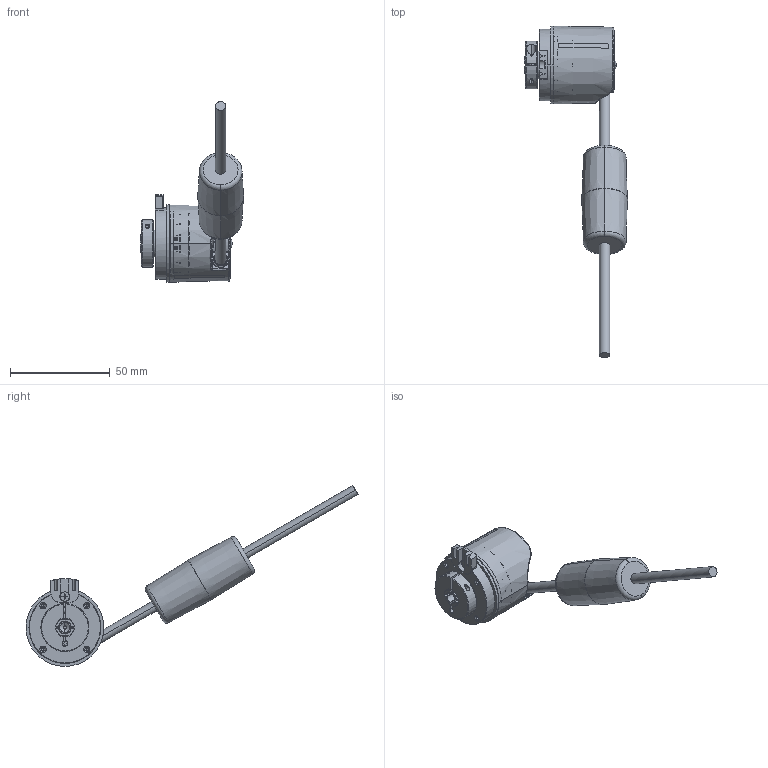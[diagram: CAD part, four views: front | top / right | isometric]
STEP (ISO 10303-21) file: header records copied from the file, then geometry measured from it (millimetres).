
FILE_DESCRIPTION (( 'STEP AP203' ), '1' );
FILE_NAME ('8.F3688.15X1.2112.STEP', '2012-08-20T13:07:02', ( 'Hodot' ), ( '' ), 'SwSTEP 2.0', 'SolidWorks 2012', '' );
FILE_SCHEMA (( 'CONFIG_CONTROL_DESIGN' ));
Length unit declared in the file: millimetre
Products named in the file (1): 8.F3688.15X1.2112
Bounding box: 51.7 x 166.37 x 90.61 mm (x, y, z)
Volume: 29045.4 mm3; surface area: 34679.4 mm2
Topology: 28 solids, 29 shells, 1355 faces, 3323 edges, 2046 vertices
Faces by surface type: plane 378, cylinder 304, bspline 285, cone 190, torus 160, sphere 38
Entity records: 47284 total; most frequent: CARTESIAN_POINT 17390, ORIENTED_EDGE 6488, DIRECTION 5859, EDGE_CURVE 3244, AXIS2_PLACEMENT_3D 2312, VERTEX_POINT 2010, EDGE_LOOP 1448, FACE_OUTER_BOUND 1355
